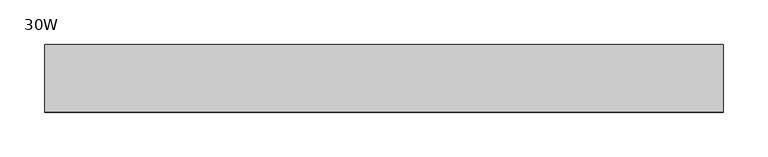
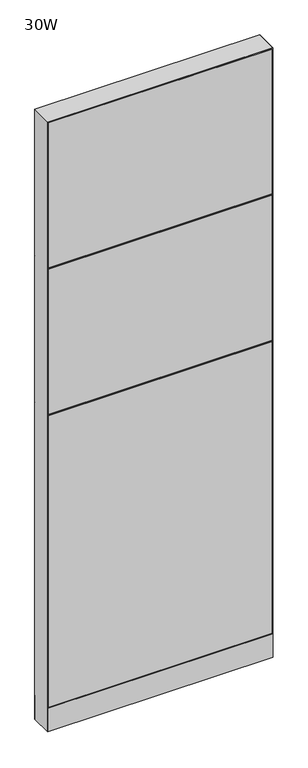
"""IFC4 building model written with IfcOpenShell, lengths in millimetres: furniture geometry, Steelcase - Montage - Frame - 86H - Enhanced Standard - Base Cavity : 30W."""

from ifc_helpers import new_model, si_unit, point, frame, frame_2d, origin, origin_with_axes, place, context, project, spatial, polyline, circle_curve, trimmed, segment, composite_curve, outline, extrude, faceted_brep, source, transform, mapped, element, save


def furniture_30w_223eebd2(model_context):
    return source(origin(), model_context, "Body", "SolidModel", [
        faceted_brep([(-5.4e-06, 38.102627, 1136.6500027), (6.3499917, 31.7526299, 1142.9999997), (755.6500047, 31.7526299, 1142.9999997), (762.0, 38.1026253, 1136.6500044), (755.6500047, 31.7526299, 1130.3000003), (6.3499917, 31.7526299, 1130.3000003)], [[[0, 1, 2, 3]], [[3, 4, 5, 0]], [[1, 5, 4, 2]], [[0, 5, 1]], [[2, 4, 3]]]),
        faceted_brep([(-5.4e-06, 38.102627, 1660.5250027), (6.3499917, 31.7526299, 1666.8749997), (755.6500047, 31.7526299, 1666.8749997), (762.0, 38.1026253, 1660.5250044), (755.6500047, 31.7526299, 1654.1750003), (6.3499917, 31.7526299, 1654.1750003)], [[[0, 1, 2, 3]], [[3, 4, 5, 0]], [[1, 5, 4, 2]], [[0, 5, 1]], [[2, 4, 3]]]),
        extrude(outline(polyline([(3.175, 31.7500194), (3.175, 38.1000194), (758.825, 38.1000194), (758.825, 31.7500194), (3.175, 31.7500194)])), frame((0.0, 0.0, 1663.7), z_axis=(0.0, 0.0, 1.0), x_axis=(1.0, 0.0, 0.0)), (0.0, 0.0, 1.0), 517.525),
        extrude(outline(polyline([(3.175, 31.7500194), (3.175, 38.1000194), (758.825, 38.1000194), (758.825, 31.7500194), (3.175, 31.7500194)])), frame((0.0, 0.0, 1139.825), z_axis=(0.0, 0.0, 1.0), x_axis=(1.0, 0.0, 0.0)), (0.0, 0.0, 1.0), 517.525),
        extrude(outline(polyline([(3.175, 31.7500194), (3.175, 38.1000194), (758.825, 38.1000194), (758.825, 31.7500194), (3.175, 31.7500194)])), frame((0.0, 0.0, 92.075), z_axis=(0.0, 0.0, 1.0), x_axis=(1.0, 0.0, 0.0)), (0.0, 0.0, 1.0), 1041.4),
        faceted_brep([(0.0, -38.1026297, 1136.65), (762.0, -38.1026297, 1136.65), (755.6500047, -31.7526299, 1142.9999997), (6.3499917, -31.7526299, 1142.9999997), (6.3499917, -31.7526299, 1130.3000003), (755.6500047, -31.7526299, 1130.3000003)], [[[0, 1, 2, 3]], [[1, 0, 4, 5]], [[3, 2, 5, 4]], [[0, 3, 4]], [[2, 1, 5]]]),
        faceted_brep([(0.0, -38.1026297, 1660.525), (762.0, -38.1026297, 1660.525), (755.6500047, -31.7526299, 1666.8749997), (6.3499917, -31.7526299, 1666.8749997), (6.3499917, -31.7526299, 1654.1750003), (755.6500047, -31.7526299, 1654.1750003)], [[[0, 1, 2, 3]], [[1, 0, 4, 5]], [[3, 2, 5, 4]], [[0, 3, 4]], [[2, 1, 5]]]),
        extrude(outline(polyline([(3.175, -31.7500194), (758.825, -31.7500194), (758.825, -38.1000194), (3.175, -38.1000194), (3.175, -31.7500194)])), frame((0.0, 0.0, 1663.7), z_axis=(0.0, 0.0, 1.0), x_axis=(1.0, 0.0, 0.0)), (0.0, 0.0, 1.0), 517.525),
        extrude(outline(polyline([(3.175, -31.7500194), (758.825, -31.7500194), (758.825, -38.1000194), (3.175, -38.1000194), (3.175, -31.7500194)])), frame((0.0, 0.0, 1139.825), z_axis=(0.0, 0.0, 1.0), x_axis=(1.0, 0.0, 0.0)), (0.0, 0.0, 1.0), 517.525),
        extrude(outline(polyline([(3.175, -31.7500194), (758.825, -31.7500194), (758.825, -38.1000194), (3.175, -38.1000194), (3.175, -31.7500194)])), frame((0.0, 0.0, 92.075), z_axis=(0.0, 0.0, 1.0), x_axis=(1.0, 0.0, 0.0)), (0.0, 0.0, 1.0), 1041.4),
        extrude(outline(polyline([(6.350003, -31.7499985), (755.649997, -31.7499985), (762.0, -38.1000015), (0.0, -38.1000015), (6.350003, -31.7499985)])), frame((0.0, 0.0, 4.064), z_axis=(0.0, 0.0, 1.0), x_axis=(1.0, 0.0, 0.0)), (0.0, 0.0, 1.0), 84.835997),
        extrude(outline(polyline([(6.3500002, 31.7500017), (0.0, 38.1000015), (762.0, 38.1000015), (755.6500002, 31.7500017), (6.3500002, 31.7500017)])), frame((0.0, 0.0, 4.064), z_axis=(0.0, 0.0, 1.0), x_axis=(1.0, 0.0, 0.0)), (0.0, 0.0, 1.0), 84.835997),
        faceted_brep([(762.0, -38.1000015, 2184.4), (0.0, -38.1000015, 2184.4), (6.3500484, -31.749953, 2178.0499516), (755.6499516, -31.749953, 2178.0499516), (6.3500484, 31.749953, 2178.0499516), (755.6499516, 31.749953, 2178.0499516), (0.0, 38.1000015, 2184.4), (762.0, 38.1000015, 2184.4)], [[[0, 1, 2, 3]], [[3, 2, 4, 5]], [[6, 7, 5, 4]], [[1, 0, 7, 6]], [[2, 1, 6, 4]], [[0, 3, 5, 7]]]),
        extrude(outline(composite_curve([segment(trimmed(circle_curve(frame_2d((44.45, 0.0)), 15.24), [point((29.21, 0.0))], [point((59.69, 0.0))], False, "CARTESIAN"), True, "CONTINUOUS"), segment(trimmed(circle_curve(frame_2d((44.45, 0.0)), 15.24), [point((59.69, 0.0))], [point((29.21, 0.0))], False, "CARTESIAN"), True, "CONTINUOUS")], self_intersect=False)), origin_with_axes(), (0.0, 0.0, 1.0), 4.064),
        extrude(outline(composite_curve([segment(trimmed(circle_curve(frame_2d((717.55, 0.0)), 15.24), [point((702.31, 0.0))], [point((732.79, 0.0))], False, "CARTESIAN"), True, "CONTINUOUS"), segment(trimmed(circle_curve(frame_2d((717.55, 0.0)), 15.24), [point((732.79, 0.0))], [point((702.31, 0.0))], False, "CARTESIAN"), True, "CONTINUOUS")], self_intersect=False)), origin_with_axes(), (0.0, 0.0, 1.0), 4.064),
        faceted_brep([(762.0, -38.1000106, 4.064), (762.0, 38.1000015, 4.064), (762.0, 38.1000015, 2184.4), (762.0, -38.1000106, 2184.3999637), (0.0, 38.1000015, 4.064), (0.0, -38.1000015, 4.064), (0.0, -38.1000015, 2184.4), (0.0, 38.1000015, 2184.4), (755.6499879, 31.7500017, 606.425), (6.35, 31.7500017, 606.425), (6.3499998, 31.7500017, 619.125), (755.6499879, 31.7500017, 619.125), (6.35, -31.7499985, 619.125), (755.6499879, -31.7499985, 619.125), (6.350003, -31.7499985, 606.425), (755.6499879, -31.7499985, 606.425), (755.6499879, 31.7500017, 1130.3), (6.35, 31.7500017, 1130.3), (6.3499998, 31.7500017, 1143.0), (755.6499879, 31.7500017, 1143.0), (6.35, -31.7499985, 1143.0), (755.6499879, -31.7499985, 1143.0), (6.350003, -31.7499985, 1130.3), (755.6499879, -31.7499985, 1130.3), (755.6499879, 31.7500017, 1654.175), (6.35, 31.7500017, 1654.175), (6.3499998, 31.7500017, 1666.875), (755.6499879, 31.7500017, 1666.875), (6.35, -31.7499985, 1666.875), (755.6499879, -31.7499985, 1666.875), (6.350003, -31.7499985, 1654.175), (755.6499879, -31.7499985, 1654.175), (6.35, 31.7500015, 4.064), (6.35, -31.7500015, 4.064), (755.6499879, 31.7499894, 4.064), (755.6499879, -31.7499985, 4.064), (6.35, 31.7500015, 2178.05), (6.35, -31.7500015, 2178.05), (755.6499879, -31.7499985, 2178.0499516), (755.6499879, 31.7499895, 2178.0499516)], [[[0, 1, 2, 3]], [[4, 5, 6, 7]], [[8, 9, 10, 11]], [[11, 10, 12, 13]], [[13, 12, 14, 15]], [[9, 8, 15, 14]], [[16, 17, 18, 19]], [[19, 18, 20, 21]], [[21, 20, 22, 23]], [[17, 16, 23, 22]], [[24, 25, 26, 27]], [[27, 26, 28, 29]], [[29, 28, 30, 31]], [[25, 24, 31, 30]], [[32, 33, 5, 4]], [[34, 1, 0, 35]], [[32, 4, 7, 36, 26, 25, 18, 17, 10, 9]], [[5, 33, 14, 12, 22, 20, 30, 28, 37, 6]], [[28, 26, 36, 37]], [[33, 32, 9, 14]], [[18, 25, 30, 20]], [[10, 17, 22, 12]], [[27, 29, 38, 39]], [[34, 35, 15, 8]], [[16, 11, 13, 23]], [[24, 19, 21, 31]], [[35, 0, 3, 38, 29, 31, 21, 23, 13, 15]], [[1, 34, 8, 11, 16, 19, 24, 27, 39, 2]], [[7, 6, 37, 36]], [[3, 2, 39, 38]]]),
    ])


if __name__ == "__main__":
    model = new_model("IFC4")
    model_context = context("Model", 3, world=origin())
    ifc_project = project(units=[si_unit("LENGTHUNIT", "METRE", prefix="MILLI")], contexts=[model_context])
    site = spatial("IfcSite", under=ifc_project)
    building = spatial("IfcBuilding", under=site)
    placement = place(None, origin())
    furniture_30w_shape = furniture_30w_223eebd2(model_context)
    element("IfcFurniture", 1, ObjectType="Steelcase - Montage - Frame - 86H - Enhanced Standard - Base Cavity : 30W", at=placement, inside=building, context=model_context, shape_type="MappedRepresentation", body=[
        mapped(furniture_30w_shape, transform((0.0, 0.0, 0.0), x_axis=(1.0, 0.0, 0.0), y_axis=(0.0, 1.0, 0.0), z_axis=(0.0, 0.0, 1.0))),
    ])
    save(model, "model.ifc")
